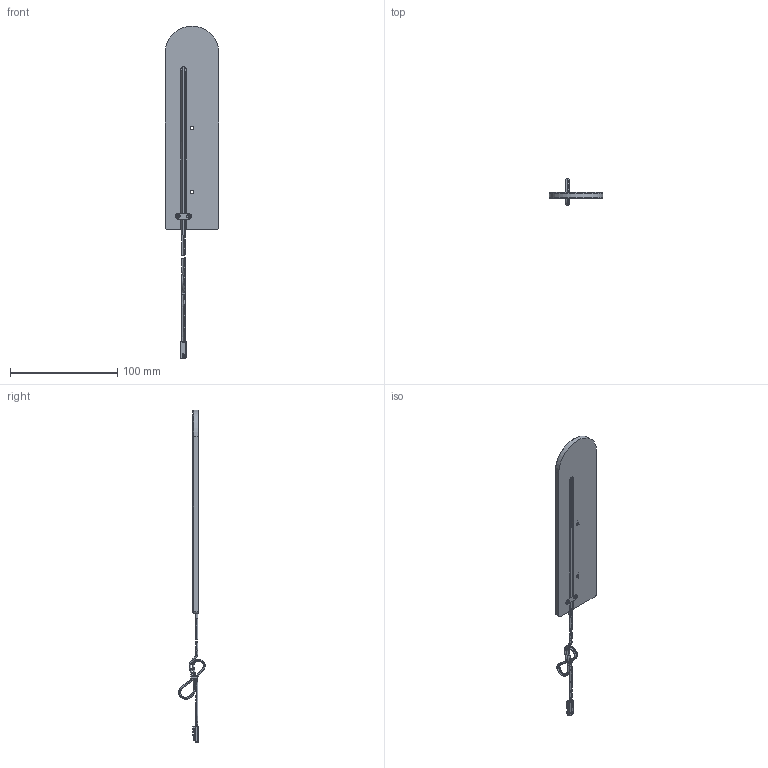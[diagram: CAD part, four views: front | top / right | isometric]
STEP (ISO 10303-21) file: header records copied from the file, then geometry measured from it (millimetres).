
FILE_DESCRIPTION (( 'STEP AP203' ), '1' );
FILE_NAME ('AddLite_24.STEP', '2024-12-02T05:02:31', ( '' ), ( '' ), 'SwSTEP 2.0', 'SolidWorks 2023', '' );
FILE_SCHEMA (( 'CONFIG_CONTROL_DESIGN' ));
Length unit declared in the file: millimetre
Products named in the file (3): 3424601; LED_Mini_Stecker_M1_Flexband_sw_FLEX; AddLite_24
Assembly tree (2 placements, depth 2):
  AddLite_24
    3424601
    LED_Mini_Stecker_M1_Flexband_sw_FLEX
Bounding box: 50 x 24.85 x 310 mm (x, y, z)
Volume: 45889.9 mm3; surface area: 29721.1 mm2
Topology: 28 solids, 28 shells, 519 faces, 1210 edges, 716 vertices
Faces by surface type: plane 232, cylinder 162, bspline 63, sphere 31, torus 28, cone 3
Entity records: 23088 total; most frequent: CARTESIAN_POINT 11518, ORIENTED_EDGE 2340, DIRECTION 2256, EDGE_CURVE 1170, AXIS2_PLACEMENT_3D 803, VERTEX_POINT 716, VECTOR 650, LINE 650
